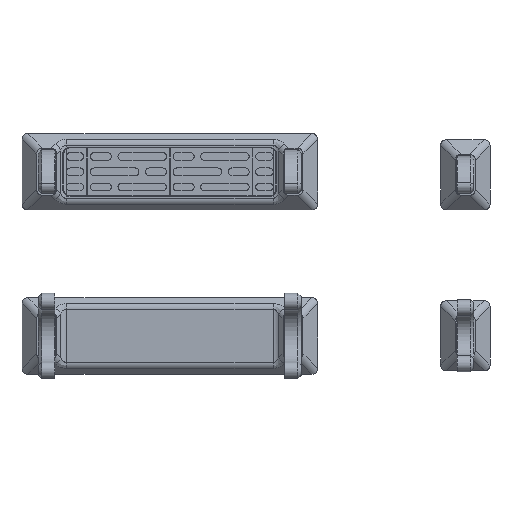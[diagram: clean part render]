
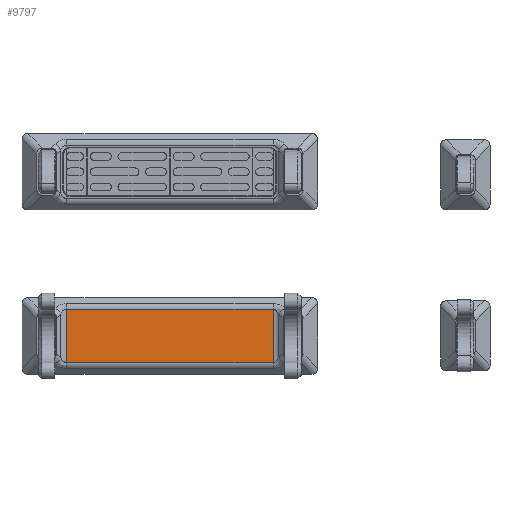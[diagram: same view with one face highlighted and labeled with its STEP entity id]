
A CAD part, top view. The second image highlights one B-rep face of the part: STEP entity #9797.
In plain terms, the highlighted planar face has unit normal (0, 0, 1).
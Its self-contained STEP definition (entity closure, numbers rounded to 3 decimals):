
#587=PLANE('',#10823);
#1111=FACE_OUTER_BOUND('',#1727,.T.);
#1727=EDGE_LOOP('',(#8655,#8656,#8657,#8658));
#2617=LINE('',#16602,#3537);
#2618=LINE('',#16661,#3538);
#2619=LINE('',#16663,#3539);
#2620=LINE('',#16667,#3540);
#3537=VECTOR('',#13444,10.);
#3538=VECTOR('',#13457,10.);
#3539=VECTOR('',#13460,10.);
#3540=VECTOR('',#13467,10.);
#4821=VERTEX_POINT('',#16570);
#4822=VERTEX_POINT('',#16598);
#4823=VERTEX_POINT('',#16628);
#4824=VERTEX_POINT('',#16657);
#6120=EDGE_CURVE('',#4821,#4822,#2617,.T.);
#6126=EDGE_CURVE('',#4822,#4824,#2618,.T.);
#6127=EDGE_CURVE('',#4824,#4823,#2619,.T.);
#6129=EDGE_CURVE('',#4823,#4821,#2620,.T.);
#8655=ORIENTED_EDGE('',*,*,#6120,.F.);
#8656=ORIENTED_EDGE('',*,*,#6129,.F.);
#8657=ORIENTED_EDGE('',*,*,#6127,.F.);
#8658=ORIENTED_EDGE('',*,*,#6126,.F.);
#9797=ADVANCED_FACE('',(#1111),#587,.T.);
#10823=AXIS2_PLACEMENT_3D('',#16672,#13474,#13475);
#13444=DIRECTION('',(-1.,0.,0.));
#13457=DIRECTION('',(0.,1.,0.));
#13460=DIRECTION('',(1.,0.,0.));
#13467=DIRECTION('',(0.,-1.,0.));
#13474=DIRECTION('center_axis',(0.,0.,1.));
#13475=DIRECTION('ref_axis',(1.,0.,0.));
#16570=CARTESIAN_POINT('',(62.929,-102.929,0.));
#16598=CARTESIAN_POINT('',(-62.929,-102.929,0.));
#16602=CARTESIAN_POINT('',(40.,-102.929,0.));
#16628=CARTESIAN_POINT('',(62.929,-70.571,0.));
#16657=CARTESIAN_POINT('',(-62.929,-70.571,0.));
#16661=CARTESIAN_POINT('',(-62.929,-91.313,0.));
#16663=CARTESIAN_POINT('',(-2.5,-70.571,0.));
#16667=CARTESIAN_POINT('',(62.929,-82.188,0.));
#16672=CARTESIAN_POINT('Origin',(0.,-86.75,0.));
